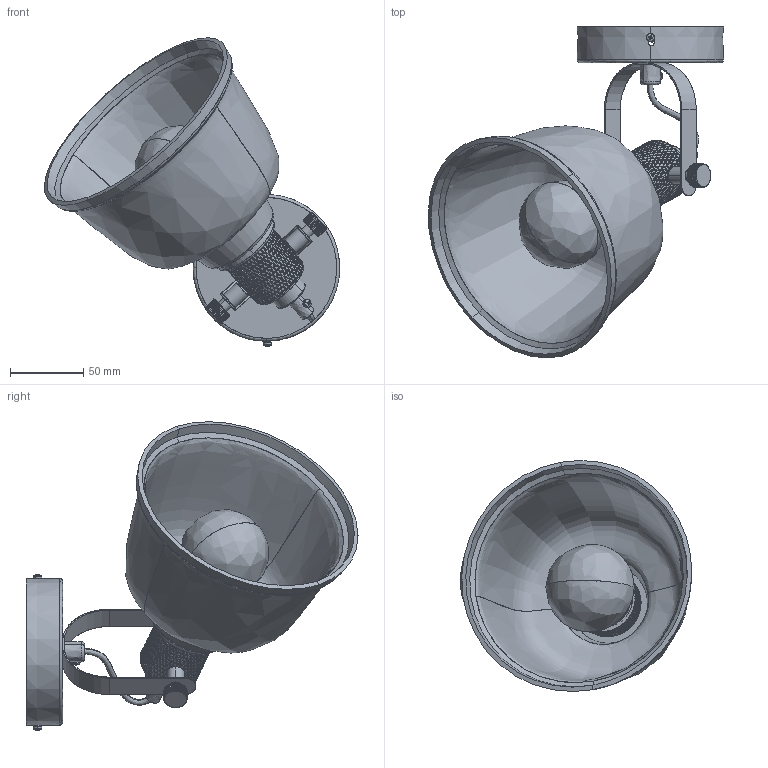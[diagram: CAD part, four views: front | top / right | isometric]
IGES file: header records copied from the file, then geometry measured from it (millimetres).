
Start section: SolidWorks IGES file using analytic representation for surfaces
Global section: file name: F:\GABRYSIA\MODELE 3D\AMALFI 9155_9154_WWW\AMALFI 9155_9154.IGS; native system: SolidWorks 2017; preprocessor: SolidWorks 2017; author: Togambi; date: 200713.140000; units: millimetre
Bounding box: 201.38 x 226.34 x 210.36 mm (x, y, z)
Surface area: 216802.1 mm2 (no closed solid volume)
Topology: 0 solids, 0 shells, 6772 faces, 39088 edges, 39064 vertices
Faces by surface type: bspline 4901, revolution 1871
